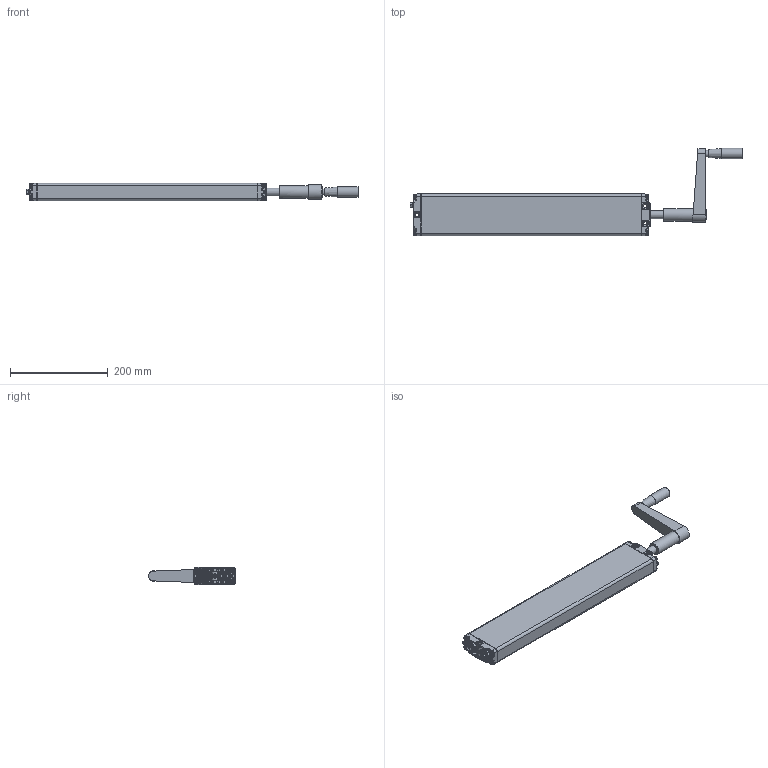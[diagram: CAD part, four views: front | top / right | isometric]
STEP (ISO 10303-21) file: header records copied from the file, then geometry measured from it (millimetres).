
FILE_DESCRIPTION(/* description */ ('Unknown'),/* implementation_level */ '2;1');
FILE_NAME(/* name */ '310.20023 Pumpe PA 1830 W mit Handkurbel',/* time_stamp */ '2016-08-10T15:49:19+02:00',/* author */ ('Unknown'),/* organization */ ('Unknown'),/* preprocessor_version */ 'ST-DEVELOPER v16.7',/* originating_system */ 'DEX',/* authorisation */ $);
FILE_SCHEMA (('AUTOMOTIVE_DESIGN {1 0 10303 214 3 1 1}'));
Products named in the file (20): 100.20023; 115.00033; 125.00045; 115.00008; 142.00021; 125.00021; 113.00005; 128.00001; 125.00052; 126.00013; 125.00053; 127.00014; Handgriff; 142.00013; 125.00143; 122.00040; 126.00002; 119.00023; 126.00001; 142.00057
Assembly tree (27 placements, depth 3):
  100.20023
    115.00033
      125.00045
      115.00008
      142.00021
      125.00021
    113.00005
      128.00001
      125.00052
      126.00013
      125.00053
      127.00014
      Handgriff
    142.00013  x8
    125.00143
    122.00040
    126.00002
    119.00023
    126.00001
    142.00057
    125.00045
Bounding box: 677.72 x 178 x 35 mm (x, y, z)
Volume: 597640.9 mm3; surface area: 313874.5 mm2
Topology: 24 solids, 24 shells, 1965 faces, 4517 edges, 2566 vertices
Faces by surface type: plane 597, bspline 480, cylinder 454, cone 286, torus 103, sphere 45
Full cylindrical faces by diameter (mm): 3.5 x2, 4 x2, 4.1 x1, 4.2 x3, 4.917 x2, 5 x8, 6.917 x4, 8 x4, 9.8 x8, 10 x4, 10.4 x1, 12.8 x1, 13 x1, 14 x1, 14.4 x2, 16 x2, 17 x1, 17.3 x2, 17.9 x4, 18 x1, 19 x1, 20.6 x1, 21 x1, 22 x1, 25.5 x1
Entity records: 68415 total; most frequent: CARTESIAN_POINT 39240, ORIENTED_EDGE 6038, DIRECTION 5009, EDGE_CURVE 3019, AXIS2_PLACEMENT_3D 2050, VERTEX_POINT 1852, FACE_BOUND 1587, EDGE_LOOP 1584
